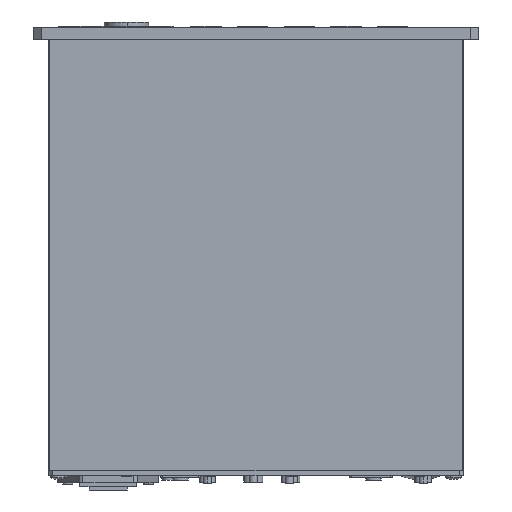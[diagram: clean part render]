
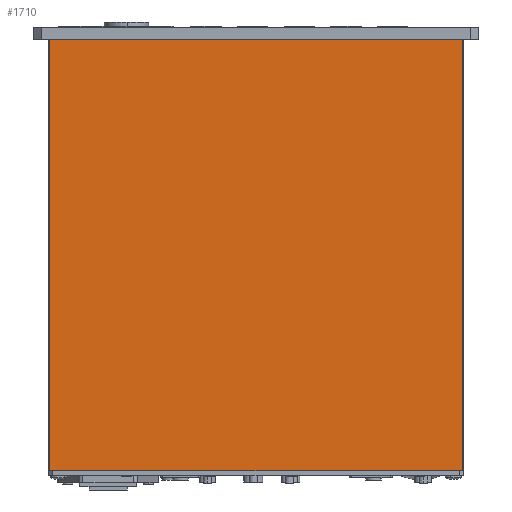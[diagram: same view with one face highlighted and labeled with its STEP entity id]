
A CAD part, front view. The second image highlights one B-rep face of the part: STEP entity #1710.
In plain terms, the highlighted planar face has unit normal (0, -1, 0).
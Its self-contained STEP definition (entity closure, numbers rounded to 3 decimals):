
#1710=ADVANCED_FACE('',(#4593),#4594,.T.);
#4593=FACE_OUTER_BOUND('',#8866,.T.);
#4594=PLANE('',#8867);
#8866=EDGE_LOOP('',(#14940,#14941,#14942,#14943));
#8867=AXIS2_PLACEMENT_3D('',#14944,#14945,#14946);
#14940=ORIENTED_EDGE('',*,*,#26222,.F.);
#14941=ORIENTED_EDGE('',*,*,#26223,.F.);
#14942=ORIENTED_EDGE('',*,*,#26124,.T.);
#14943=ORIENTED_EDGE('',*,*,#26121,.F.);
#14944=CARTESIAN_POINT('',(0.,-176.5,0.));
#14945=DIRECTION('',(0.0,-1.0,0.0));
#14946=DIRECTION('',(0.0,0.0,-1.0));
#26121=EDGE_CURVE('',#31458,#31460,#31461,.T.);
#26124=EDGE_CURVE('',#31464,#31460,#31465,.T.);
#26222=EDGE_CURVE('',#31649,#31458,#31650,.T.);
#26223=EDGE_CURVE('',#31464,#31649,#31651,.T.);
#31458=VERTEX_POINT('',#38674);
#31460=VERTEX_POINT('',#38676);
#31461=LINE('',#38677,#38678);
#31464=VERTEX_POINT('',#38681);
#31465=LINE('',#38682,#38683);
#31649=VERTEX_POINT('',#38944);
#31650=LINE('',#38945,#38946);
#31651=LINE('',#38947,#38948);
#38674=CARTESIAN_POINT('',(101.8,-176.5,0.));
#38676=CARTESIAN_POINT('',(101.8,-176.5,-213.));
#38677=CARTESIAN_POINT('',(101.8,-176.5,0.));
#38678=VECTOR('',#48278,213.0);
#38681=CARTESIAN_POINT('',(-101.8,-176.5,-213.));
#38682=CARTESIAN_POINT('',(-101.8,-176.5,-213.));
#38683=VECTOR('',#48282,203.6);
#38944=CARTESIAN_POINT('',(-101.8,-176.5,0.));
#38945=CARTESIAN_POINT('',(-101.8,-176.5,0.));
#38946=VECTOR('',#48408,203.6);
#38947=CARTESIAN_POINT('',(-101.8,-176.5,-213.));
#38948=VECTOR('',#48409,213.0);
#48278=DIRECTION('',(0.0,0.0,-1.0));
#48282=DIRECTION('',(1.0,0.0,0.0));
#48408=DIRECTION('',(1.0,0.0,0.0));
#48409=DIRECTION('',(0.0,0.0,1.0));
